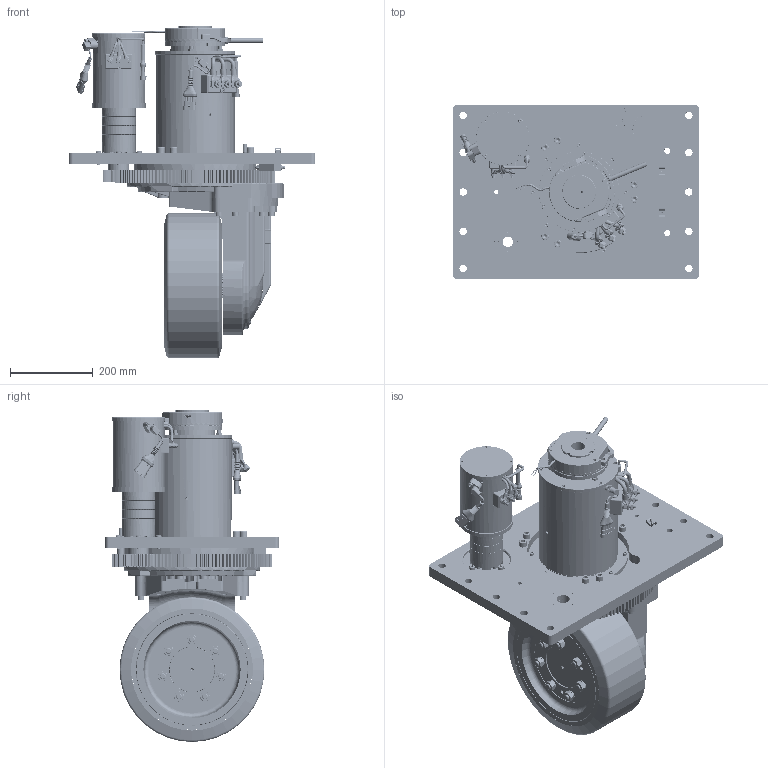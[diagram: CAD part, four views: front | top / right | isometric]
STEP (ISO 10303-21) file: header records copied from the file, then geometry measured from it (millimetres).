
FILE_DESCRIPTION(/* description */ (''),/* implementation_level */ '2;1');
FILE_NAME(/* name */ 'C:\Users\marco bosi\Desktop\WR350FMS-AC.stp',/* time_stamp */ '2023-07-18T12:15:44+02:00',/* author */ ('marco bosi'),/* organization */ (''),/* preprocessor_version */ 'ST-DEVELOPER v18.1',/* originating_system */ 'Autodesk Inventor 2022',/* authorisation */ '');
FILE_SCHEMA (('AUTOMOTIVE_DESIGN { 1 0 10303 214 3 1 1 }'));
Length unit declared in the file: millimetre
Products named in the file (1): WR350FMS48_Semplifica_1
Bounding box: 595 x 420 x 802.1 mm (x, y, z)
Volume: 24983322.2 mm3; surface area: 3365958.9 mm2
Topology: 13 solids, 27 shells, 15547 faces, 41614 edges, 27128 vertices
Faces by surface type: plane 10783, cylinder 2796, cone 921, bspline 590, torus 421, sphere 36
Full cylindrical faces by diameter (mm): 1.5 x2, 1.7 x2, 1.88 x2, 2.459 x16, 3.242 x1, 4 x8, 4.134 x7, 4.25 x2, 4.5 x6, 4.8 x8, 4.917 x31, 5 x13, 5.3 x5, 5.5 x10, 6 x42, 6.1 x3, 6.2 x7, 6.3 x2, 6.4 x16, 6.5 x15, 6.6 x9, 6.647 x16, 7 x6, 7.5 x1, 8 x22, 8.2 x3, 8.376 x8, 8.5 x13, 9 x15, 9.25 x9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
Entity records: 580054 total; most frequent: CARTESIAN_POINT 174559, ORIENTED_EDGE 82797, DIRECTION 80049, EDGE_CURVE 41420, AXIS2_PLACEMENT_3D 27703, VERTEX_POINT 27123, LINE 24643, VECTOR 24643
